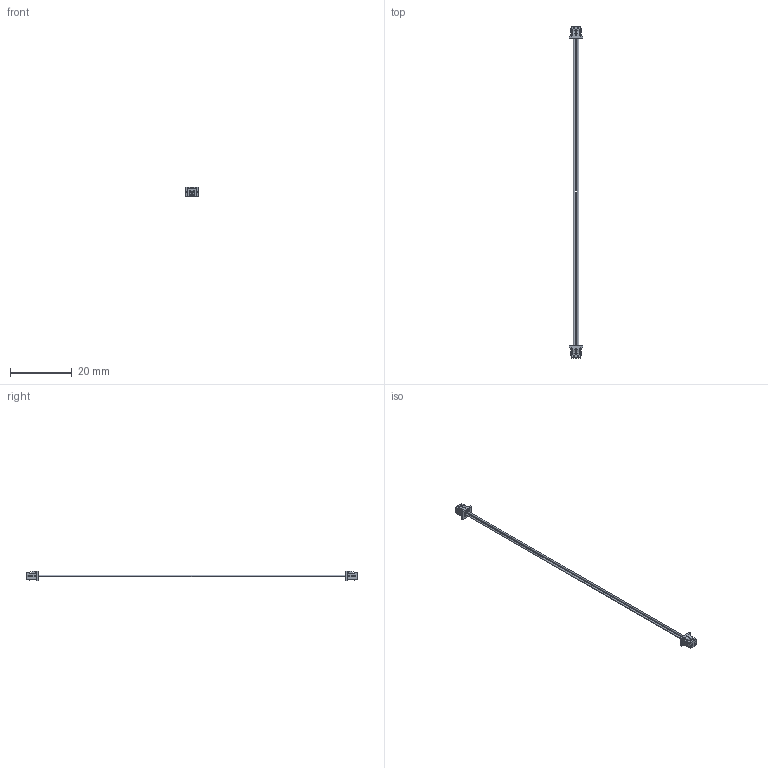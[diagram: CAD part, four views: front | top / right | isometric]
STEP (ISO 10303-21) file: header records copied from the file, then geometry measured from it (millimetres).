
FILE_DESCRIPTION((''),'2;1');
FILE_NAME('151340201','2019-12-25T',('gga'),(''),'PRO/ENGINEER BY PARAMETRIC TECHNOLOGY CORPORATION, 2016010','PRO/ENGINEER BY PARAMETRIC TECHNOLOGY CORPORATION, 2016010','');
FILE_SCHEMA(('CONFIG_CONTROL_DESIGN'));
Length unit declared in the file: millimetre
Products named in the file (1): 151340201
Bounding box: 4.25 x 107.9 x 3.2 mm (x, y, z)
Volume: 117.1 mm3; surface area: 560.5 mm2
Topology: 1 solids, 1 shells, 238 faces, 630 edges, 404 vertices
Faces by surface type: plane 234, cylinder 4
Entity records: 7193 total; most frequent: CARTESIAN_POINT 1269, ORIENTED_EDGE 1256, DIRECTION 1116, EDGE_CURVE 628, VECTOR 622, LINE 622, VERTEX_POINT 400, EDGE_LOOP 248
